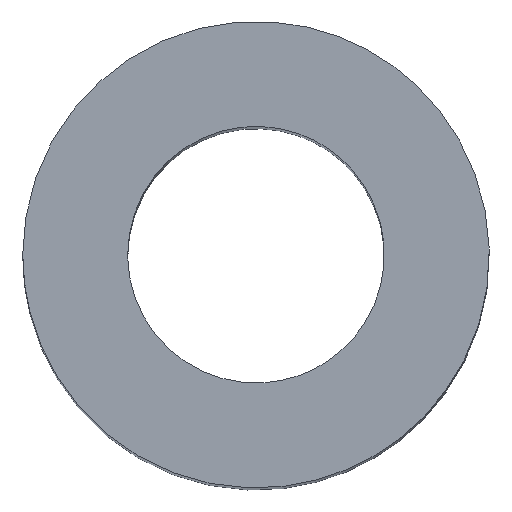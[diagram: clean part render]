
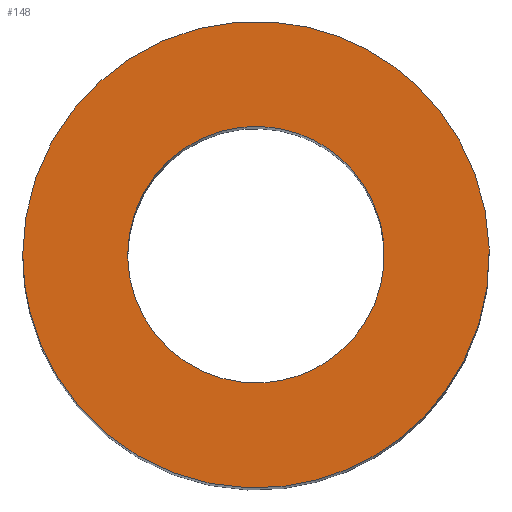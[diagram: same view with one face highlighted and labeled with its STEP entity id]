
A CAD part, top view. The second image highlights one B-rep face of the part: STEP entity #148.
In plain terms, the highlighted free-form (B-spline) face has degree [1, 1] with [2, 2] control points.
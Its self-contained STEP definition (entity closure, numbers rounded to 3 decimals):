
#115 = EDGE_CURVE('',#116,#116,#118,.T.);
#116 = VERTEX_POINT('',#117);
#117 = CARTESIAN_POINT('',(-3.,0.,16.));
#118 = ( BOUNDED_CURVE() B_SPLINE_CURVE(2,(#119,#120,#121,#122,#123,#124
,#125),.UNSPECIFIED.,.T.,.F.) B_SPLINE_CURVE_WITH_KNOTS((1,2,2,2,2,1),(
    -2.094,0.,2.094,4.189,6.283,
8.378),.UNSPECIFIED.) CURVE() GEOMETRIC_REPRESENTATION_ITEM() 
RATIONAL_B_SPLINE_CURVE((1.,0.5,1.,0.5,1.,0.5,1.)) REPRESENTATION_ITEM(
  '') );
#119 = CARTESIAN_POINT('',(-3.,0.,16.));
#120 = CARTESIAN_POINT('',(-3.,5.196,16.));
#121 = CARTESIAN_POINT('',(1.5,2.598,16.));
#122 = CARTESIAN_POINT('',(6.,0.,16.));
#123 = CARTESIAN_POINT('',(1.5,-2.598,16.));
#124 = CARTESIAN_POINT('',(-3.,-5.196,16.));
#125 = CARTESIAN_POINT('',(-3.,0.,16.));
#148 = ADVANCED_FACE('',(#149,#163),#166,.T.);
#149 = FACE_BOUND('',#150,.T.);
#150 = EDGE_LOOP('',(#151));
#151 = ORIENTED_EDGE('',*,*,#152,.T.);
#152 = EDGE_CURVE('',#153,#153,#155,.T.);
#153 = VERTEX_POINT('',#154);
#154 = CARTESIAN_POINT('',(-1.65,0.,16.));
#155 = ( BOUNDED_CURVE() B_SPLINE_CURVE(2,(#156,#157,#158,#159,#160,#161
,#162),.UNSPECIFIED.,.T.,.F.) B_SPLINE_CURVE_WITH_KNOTS((1,2,2,2,2,1),(
    -2.094,0.,2.094,4.189,6.283,
8.378),.UNSPECIFIED.) CURVE() GEOMETRIC_REPRESENTATION_ITEM() 
RATIONAL_B_SPLINE_CURVE((1.,0.5,1.,0.5,1.,0.5,1.)) REPRESENTATION_ITEM(
  '') );
#156 = CARTESIAN_POINT('',(-1.65,0.,16.));
#157 = CARTESIAN_POINT('',(-1.65,2.858,16.));
#158 = CARTESIAN_POINT('',(0.825,1.429,16.));
#159 = CARTESIAN_POINT('',(3.3,0.,16.));
#160 = CARTESIAN_POINT('',(0.825,-1.429,16.));
#161 = CARTESIAN_POINT('',(-1.65,-2.858,16.));
#162 = CARTESIAN_POINT('',(-1.65,0.,16.));
#163 = FACE_BOUND('',#164,.T.);
#164 = EDGE_LOOP('',(#165));
#165 = ORIENTED_EDGE('',*,*,#115,.F.);
#166 = B_SPLINE_SURFACE_WITH_KNOTS('',1,1,(
    (#167,#168)
    ,(#169,#170
  )),.UNSPECIFIED.,.F.,.F.,.F.,(2,2),(2,2),(0.,6.),(-3.,3.),
  .PIECEWISE_BEZIER_KNOTS.);
#167 = CARTESIAN_POINT('',(-3.,-3.,16.));
#168 = CARTESIAN_POINT('',(-3.,3.,16.));
#169 = CARTESIAN_POINT('',(3.,-3.,16.));
#170 = CARTESIAN_POINT('',(3.,3.,16.));
